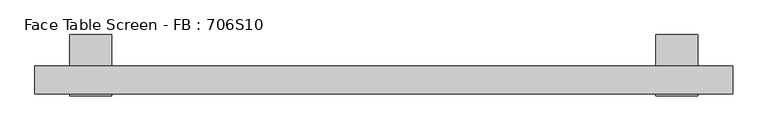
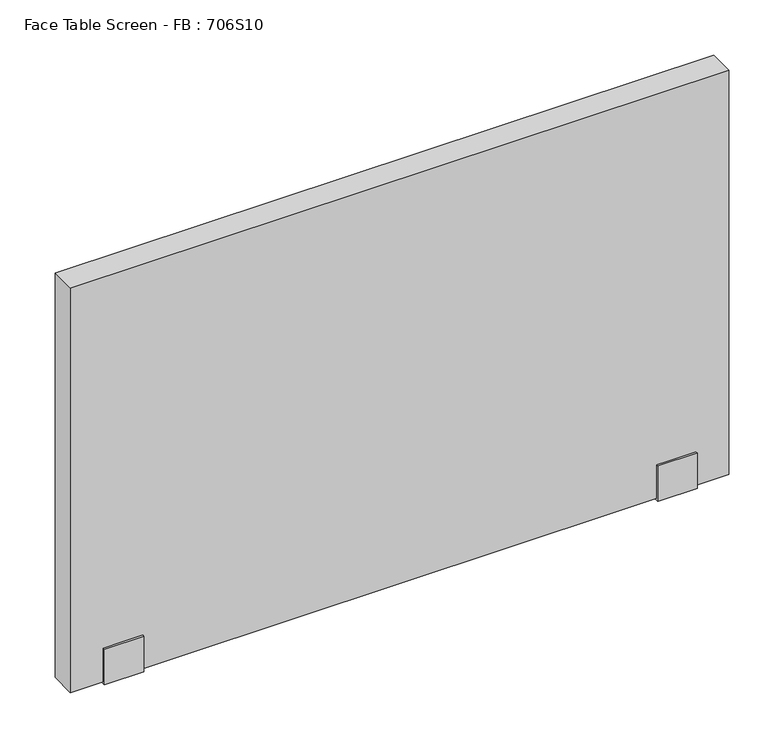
"""IFC4 building model written with IfcOpenShell, lengths in millimetres: furniture geometry, Face Table Screen - FB : 706S10."""

from ifc_helpers import new_model, si_unit, frame, origin, place, context, project, spatial, polyline, outline, extrude, source, transform, mapped, element, save


def face_table_screen_fb_706s10_108e3ade(model_context):
    return source(origin(), model_context, "Body", "SweptSolid", [
        extrude(outline(polyline([(-42.9999947, -156.0), (-42.9999997, -99.0433898), (-40.0, -99.0433898), (-40.0, -153.0), (0.0, -153.0), (0.0, -22.0), (45.0, -22.0), (45.0, -25.0433898), (3.0000062, -25.0433898), (2.9999947, -156.0), (-42.9999947, -156.0)])), frame((409.9863751, 0.0, 0.0), z_axis=(1.0, 0.0, 0.0), x_axis=(0.0, 1.0, 0.0)), (0.0, 0.0, 1.0), 60.0),
        extrude(outline(polyline([(-42.9999947, -156.0), (-42.9999997, -99.0433898), (-40.0, -99.0433898), (-40.0, -153.0), (0.0, -153.0), (0.0, -22.0), (45.0, -22.0), (45.0, -25.0433898), (3.0000062, -25.0433898), (2.9999947, -156.0), (-42.9999947, -156.0)])), frame((-430.0136249, 0.0, 0.0), z_axis=(1.0, 0.0, 0.0), x_axis=(0.0, 1.0, 0.0)), (0.0, 0.0, 1.0), 60.0),
        extrude(outline(polyline([(519.9863751, -40.0), (-480.0136249, -40.0), (-480.0136249, 0.0), (519.9863751, 0.0), (519.9863751, -40.0)])), frame((0.0, 0.0, -153.0), z_axis=(0.0, 0.0, 1.0), x_axis=(1.0, 0.0, 0.0)), (0.0, 0.0, 1.0), 650.0),
    ])


if __name__ == "__main__":
    model = new_model("IFC4")
    model_context = context("Model", 3, world=origin())
    ifc_project = project(units=[si_unit("LENGTHUNIT", "METRE", prefix="MILLI")], contexts=[model_context])
    site = spatial("IfcSite", under=ifc_project)
    building = spatial("IfcBuilding", under=site)
    placement = place(None, origin())
    face_table_screen_fb_706s10_shape = face_table_screen_fb_706s10_108e3ade(model_context)
    element("IfcFurniture", 1, ObjectType="Face Table Screen - FB : 706S10", at=placement, inside=building, context=model_context, shape_type="MappedRepresentation", body=[
        mapped(face_table_screen_fb_706s10_shape, transform((0.0, 0.0, 0.0), x_axis=(1.0, 0.0, 0.0), y_axis=(0.0, 1.0, 0.0), z_axis=(0.0, 0.0, 1.0))),
    ])
    save(model, "model.ifc")
